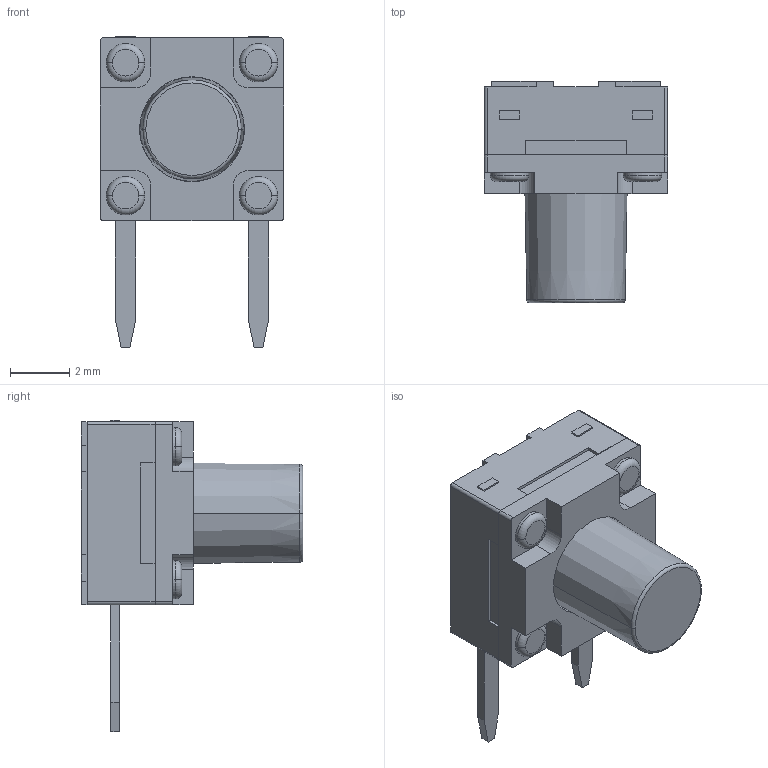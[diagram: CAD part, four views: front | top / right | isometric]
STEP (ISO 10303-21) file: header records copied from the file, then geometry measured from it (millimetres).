
FILE_DESCRIPTION((''),'2;1');
FILE_NAME('JQF6060AF-C0751-01EG-101_ASM','2026-05-26T10:22:34',('Admin'),(''),'CREO PARAMETRIC BY PTC INC, 2019224','CREO PARAMETRIC BY PTC INC, 2019224','');
FILE_SCHEMA(('AUTOMOTIVE_DESIGN { 1 0 10303 214 1 1 1 1 }'));
Length unit declared in the file: millimetre
Products named in the file (3): JQF6060AF-C0751-01EG-101_01; JQF6060AF-C0751-01EG-101_02; JQF6060AF-C0751-01EG-101_ASM
Assembly tree (2 placements, depth 2):
  JQF6060AF-C0751-01EG-101_ASM
    JQF6060AF-C0751-01EG-101_01
    JQF6060AF-C0751-01EG-101_02
Bounding box: 6.2 x 7.5 x 10.55 mm (x, y, z)
Volume: 175.8 mm3; surface area: 348.9 mm2
Topology: 2 solids, 2 shells, 152 faces, 403 edges, 276 vertices
Faces by surface type: plane 110, cylinder 30, torus 10, cone 2
Entity records: 6383 total; most frequent: CARTESIAN_POINT 835, DIRECTION 815, ORIENTED_EDGE 792, PRESENTATION_STYLE_ASSIGNMENT 430, STYLED_ITEM 408, CURVE_STYLE 406, EDGE_CURVE 396, VECTOR 317
